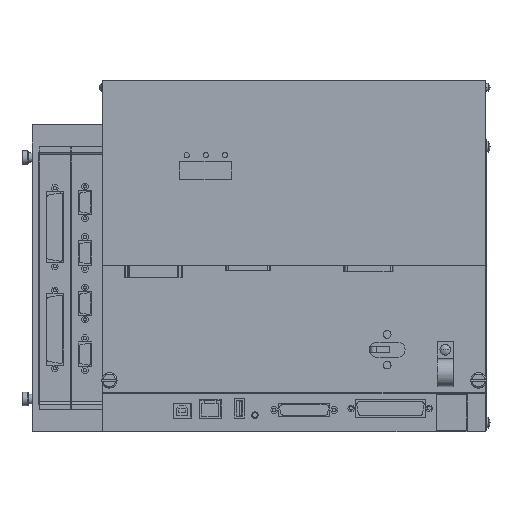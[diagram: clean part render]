
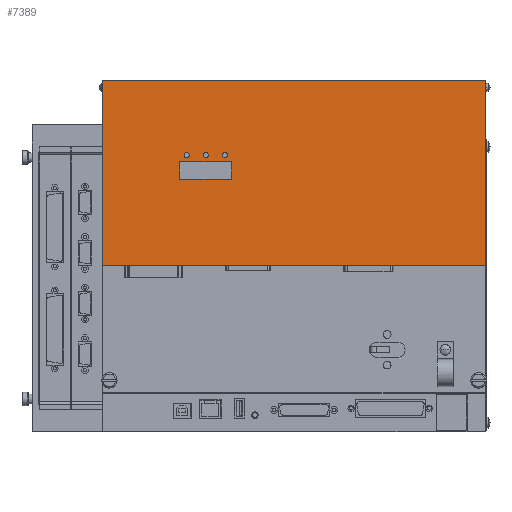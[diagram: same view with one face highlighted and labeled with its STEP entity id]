
A CAD part, top view. The second image highlights one B-rep face of the part: STEP entity #7389.
In plain terms, the highlighted planar face has unit normal (0, 0, 1).
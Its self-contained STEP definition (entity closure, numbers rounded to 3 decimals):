
#4151 = EDGE_CURVE( '', #9725, #6757, #12217, .T. );
#4233 = EDGE_CURVE( '', #6757, #9725, #12308, .T. );
#4841 = EDGE_CURVE( '', #9309, #7895, #12982, .T. );
#5463 = VERTEX_POINT( '', #13676 );
#6121 = EDGE_CURVE( '', #7307, #6817, #14402, .T. );
#6211 = EDGE_CURVE( '', #6955, #10279, #14505, .T. );
#6459 = EDGE_CURVE( '', #9037, #9175, #14783, .T. );
#6757 = VERTEX_POINT( '', #15111 );
#6817 = VERTEX_POINT( '', #15178 );
#6955 = VERTEX_POINT( '', #15331 );
#6971 = EDGE_CURVE( '', #9037, #6955, #15350, .T. );
#7189 = VERTEX_POINT( '', #15598 );
#7307 = VERTEX_POINT( '', #15728 );
#7389 = ADVANCED_FACE( '', ( #15819, #15820, #15821, #15822, #15823 ), #15824, .T. );
#7895 = VERTEX_POINT( '', #16391 );
#9037 = VERTEX_POINT( '', #17646 );
#9175 = VERTEX_POINT( '', #17799 );
#9309 = VERTEX_POINT( '', #17948 );
#9579 = VERTEX_POINT( '', #18246 );
#9581 = VERTEX_POINT( '', #18248 );
#9725 = VERTEX_POINT( '', #18405 );
#10279 = VERTEX_POINT( '', #19028 );
#10311 = EDGE_CURVE( '', #9579, #9581, #19074, .T. );
#10479 = EDGE_CURVE( '', #5463, #7189, #19267, .T. );
#11131 = EDGE_CURVE( '', #6817, #9309, #20021, .T. );
#11291 = EDGE_CURVE( '', #7895, #7307, #20199, .T. );
#11493 = EDGE_CURVE( '', #9581, #9579, #20427, .T. );
#11723 = EDGE_CURVE( '', #7189, #5463, #20674, .T. );
#11957 = EDGE_CURVE( '', #9175, #10279, #20938, .T. );
#12217 = CIRCLE( '', #21236, 2. );
#12308 = CIRCLE( '', #21370, 2. );
#12982 = LINE( '', #22314, #22315 );
#13676 = CARTESIAN_POINT( '', ( 93., 216.3, 40. ) );
#14402 = LINE( '', #24281, #24282 );
#14505 = LINE( '', #24426, #24427 );
#14783 = LINE( '', #24801, #24802 );
#15111 = CARTESIAN_POINT( '', ( 63., 216.3, 40. ) );
#15178 = CARTESIAN_POINT( '', ( 59.5, 197.3, 40. ) );
#15331 = CARTESIAN_POINT( '', ( -1., 275., 40. ) );
#15350 = LINE( '', #25584, #25585 );
#15598 = CARTESIAN_POINT( '', ( 97., 216.3, 40. ) );
#15728 = CARTESIAN_POINT( '', ( 59.5, 211.3, 40. ) );
#15819 = FACE_OUTER_BOUND( '', #26220, .T. );
#15820 = FACE_BOUND( '', #26221, .T. );
#15821 = FACE_BOUND( '', #26222, .T. );
#15822 = FACE_BOUND( '', #26223, .T. );
#15823 = FACE_BOUND( '', #26224, .T. );
#15824 = PLANE( '', #26225 );
#16391 = CARTESIAN_POINT( '', ( 100.1, 211.3, 40. ) );
#17646 = CARTESIAN_POINT( '', ( -1., 130., 40. ) );
#17799 = CARTESIAN_POINT( '', ( 299., 130., 40. ) );
#17948 = CARTESIAN_POINT( '', ( 100.1, 197.3, 40. ) );
#18246 = CARTESIAN_POINT( '', ( 82., 216.3, 40. ) );
#18248 = CARTESIAN_POINT( '', ( 78., 216.3, 40. ) );
#18405 = CARTESIAN_POINT( '', ( 67., 216.3, 40. ) );
#19028 = CARTESIAN_POINT( '', ( 299., 275., 40. ) );
#19074 = CIRCLE( '', #30723, 2. );
#19267 = CIRCLE( '', #30986, 2. );
#20021 = LINE( '', #32014, #32015 );
#20199 = LINE( '', #32245, #32246 );
#20427 = CIRCLE( '', #32563, 2. );
#20674 = CIRCLE( '', #32912, 2. );
#20938 = LINE( '', #33285, #33286 );
#21236 = AXIS2_PLACEMENT_3D( '', #33623, #33624, #33625 );
#21370 = AXIS2_PLACEMENT_3D( '', #33724, #33725, #33726 );
#22314 = CARTESIAN_POINT( '', ( 100.1, 197.3, 40. ) );
#22315 = VECTOR( '', #34445, 1. );
#24281 = CARTESIAN_POINT( '', ( 59.5, 211.3, 40. ) );
#24282 = VECTOR( '', #36021, 1. );
#24426 = CARTESIAN_POINT( '', ( 299., 275., 40. ) );
#24427 = VECTOR( '', #36160, 1. );
#24801 = CARTESIAN_POINT( '', ( -1., 130., 40. ) );
#24802 = VECTOR( '', #36489, 1. );
#25584 = CARTESIAN_POINT( '', ( -1., 275., 40. ) );
#25585 = VECTOR( '', #37105, 1. );
#26220 = EDGE_LOOP( '', ( #37654, #37655, #37656, #37657 ) );
#26221 = EDGE_LOOP( '', ( #37658, #37659 ) );
#26222 = EDGE_LOOP( '', ( #37660, #37661 ) );
#26223 = EDGE_LOOP( '', ( #37662, #37663 ) );
#26224 = EDGE_LOOP( '', ( #37664, #37665, #37666, #37667 ) );
#26225 = AXIS2_PLACEMENT_3D( '', #37668, #37669, #37670 );
#30723 = AXIS2_PLACEMENT_3D( '', #41185, #41186, #41187 );
#30986 = AXIS2_PLACEMENT_3D( '', #41424, #41425, #41426 );
#32014 = CARTESIAN_POINT( '', ( 59.5, 197.3, 40. ) );
#32015 = VECTOR( '', #42361, 1. );
#32245 = CARTESIAN_POINT( '', ( 100.1, 211.3, 40. ) );
#32246 = VECTOR( '', #42540, 1. );
#32563 = AXIS2_PLACEMENT_3D( '', #42839, #42840, #42841 );
#32912 = AXIS2_PLACEMENT_3D( '', #43052, #43053, #43054 );
#33285 = CARTESIAN_POINT( '', ( 299., 275., 40. ) );
#33286 = VECTOR( '', #43371, 1. );
#33623 = CARTESIAN_POINT( '', ( 65., 216.3, 40. ) );
#33624 = DIRECTION( '', ( 0., 0., 1. ) );
#33625 = DIRECTION( '', ( 1., 0., 0. ) );
#33724 = CARTESIAN_POINT( '', ( 65., 216.3, 40. ) );
#33725 = DIRECTION( '', ( 0., 0., 1. ) );
#33726 = DIRECTION( '', ( 1., 0., 0. ) );
#34445 = DIRECTION( '', ( 0., 1., 0. ) );
#36021 = DIRECTION( '', ( 0., -1., 0. ) );
#36160 = DIRECTION( '', ( 1., 0., 0. ) );
#36489 = DIRECTION( '', ( 1., 0., 0. ) );
#37105 = DIRECTION( '', ( 0., 1., 0. ) );
#37654 = ORIENTED_EDGE( '', *, *, #6971, .F. );
#37655 = ORIENTED_EDGE( '', *, *, #6459, .T. );
#37656 = ORIENTED_EDGE( '', *, *, #11957, .T. );
#37657 = ORIENTED_EDGE( '', *, *, #6211, .F. );
#37658 = ORIENTED_EDGE( '', *, *, #11723, .F. );
#37659 = ORIENTED_EDGE( '', *, *, #10479, .F. );
#37660 = ORIENTED_EDGE( '', *, *, #10311, .F. );
#37661 = ORIENTED_EDGE( '', *, *, #11493, .F. );
#37662 = ORIENTED_EDGE( '', *, *, #4151, .F. );
#37663 = ORIENTED_EDGE( '', *, *, #4233, .F. );
#37664 = ORIENTED_EDGE( '', *, *, #11131, .F. );
#37665 = ORIENTED_EDGE( '', *, *, #6121, .F. );
#37666 = ORIENTED_EDGE( '', *, *, #11291, .F. );
#37667 = ORIENTED_EDGE( '', *, *, #4841, .F. );
#37668 = CARTESIAN_POINT( '', ( -1., 131., 40. ) );
#37669 = DIRECTION( '', ( 0., 0., 1. ) );
#37670 = DIRECTION( '', ( -1., 0., 0. ) );
#41185 = CARTESIAN_POINT( '', ( 80., 216.3, 40. ) );
#41186 = DIRECTION( '', ( 0., 0., 1. ) );
#41187 = DIRECTION( '', ( 1., 0., 0. ) );
#41424 = CARTESIAN_POINT( '', ( 95., 216.3, 40. ) );
#41425 = DIRECTION( '', ( 0., 0., 1. ) );
#41426 = DIRECTION( '', ( 1., 0., 0. ) );
#42361 = DIRECTION( '', ( 1., 0., 0. ) );
#42540 = DIRECTION( '', ( -1., 0., 0. ) );
#42839 = CARTESIAN_POINT( '', ( 80., 216.3, 40. ) );
#42840 = DIRECTION( '', ( 0., 0., 1. ) );
#42841 = DIRECTION( '', ( 1., 0., 0. ) );
#43052 = CARTESIAN_POINT( '', ( 95., 216.3, 40. ) );
#43053 = DIRECTION( '', ( 0., 0., 1. ) );
#43054 = DIRECTION( '', ( 1., 0., 0. ) );
#43371 = DIRECTION( '', ( 0., 1., 0. ) );
